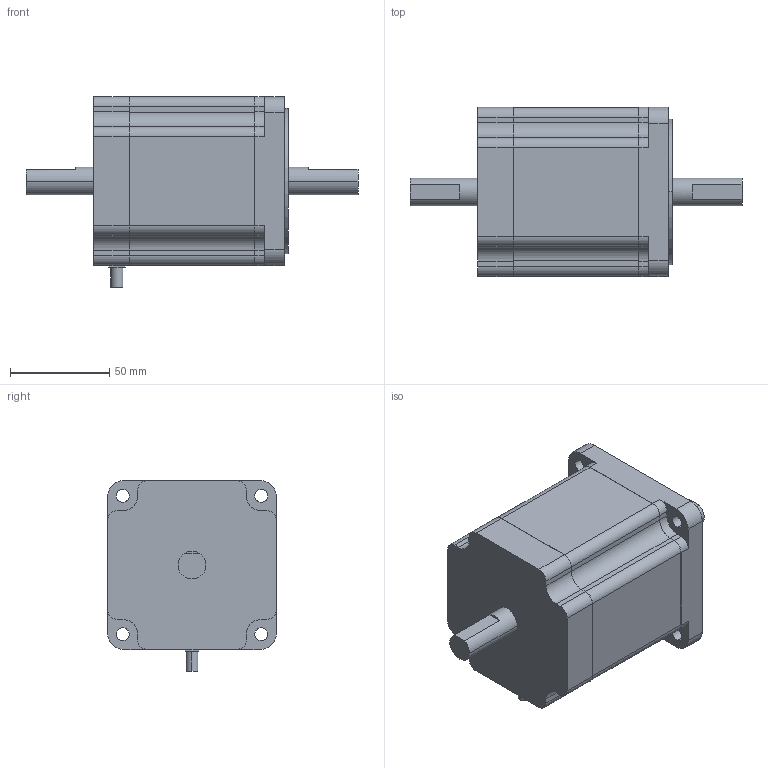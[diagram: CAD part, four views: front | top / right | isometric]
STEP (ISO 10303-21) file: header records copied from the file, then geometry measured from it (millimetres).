
FILE_DESCRIPTION (( 'STEP AP214' ), '1' );
FILE_NAME ('PK299_E4.5B.STEP', '2007-11-19T07:54:26', ( 'オムニ・アドカンパニー' ), ( 'オリエンタルモーター' ), 'SwSTEP 2.0', 'SolidWorks 2007', '' );
FILE_SCHEMA (( 'AUTOMOTIVE_DESIGN' ));
Length unit declared in the file: millimetre
Products named in the file (1): PK299_E4.5B
Bounding box: 167 x 85 x 96 mm (x, y, z)
Volume: 630357.3 mm3; surface area: 48526.8 mm2
Topology: 1 solids, 1 shells, 113 faces, 312 edges, 208 vertices
Faces by surface type: plane 57, cylinder 56
Entity records: 3681 total; most frequent: DIRECTION 656, CARTESIAN_POINT 634, ORIENTED_EDGE 624, EDGE_CURVE 312, AXIS2_PLACEMENT_3D 230, VERTEX_POINT 208, VECTOR 196, LINE 196
